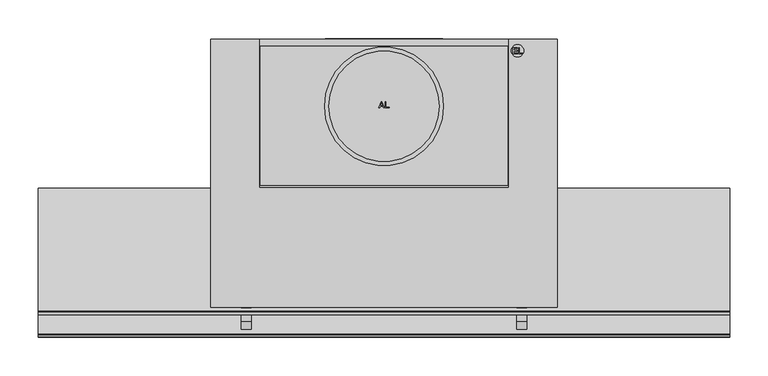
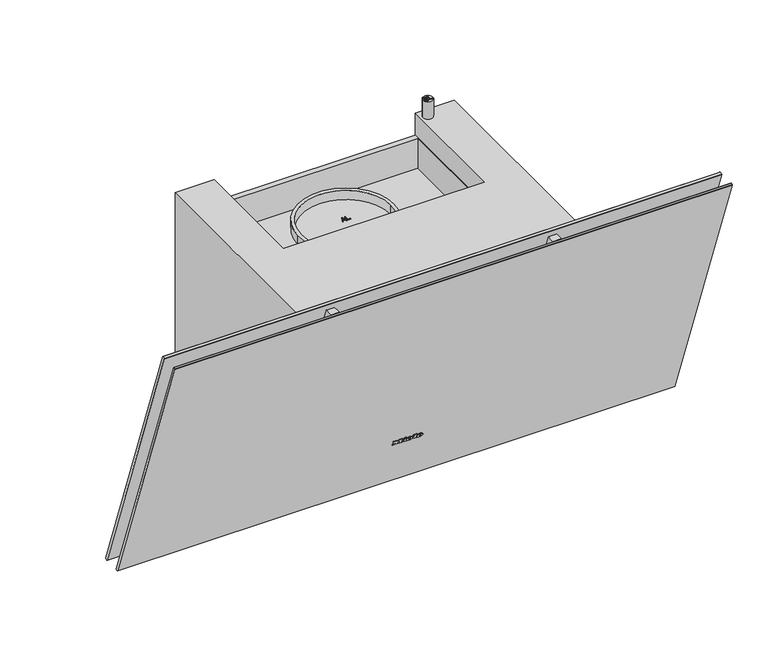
"""IFC4 building model written with IfcOpenShell, lengths in millimetres: proxy geometry, 12568630_F_DAH2960_GRGR : 28H2960G_F_12568630_DAH2960_GRGR."""

from ifc_helpers import new_model, si_unit, point, frame, frame_2d, origin, origin_with_axes, place, context, project, spatial, polyline, circle_curve, ellipse_curve, trimmed, segment, composite_curve, outline, extrude, faceted_brep, source, transform, mapped, element, save
from ifc_brep_helpers import plane_surface, cylinder_surface, revolved_surface, extruded_surface, advanced_brep


def specialty_equipment_28f42fde(model_context):
    return source(origin(), model_context, "Body", "SolidModel", [
        extrude(outline(polyline([(0.0, 0.0), (0.968, 0.0), (0.968, 5.352), (0.0, 5.352), (0.0, 6.696), (3.52, 6.696), (3.52, 5.352), (2.56, 5.352), (2.56, 1.9488753), (6.136, 6.696), (9.728, 1.8807777), (9.728, 5.352), (8.744, 5.352), (8.744, 6.696), (15.128, 6.696), (15.128, 5.352), (14.112, 5.352), (14.112, 0.0), (15.128, 0.0), (15.128, -1.304), (10.256, -1.304), (7.92, 1.696), (5.576, -1.304), (0.0, -1.304), (0.0, 0.0)])), frame((-24.271984, -261.1380975, 82.2921818), z_axis=(0.0, 0.9396926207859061, 0.34202014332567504), x_axis=(1.0, 0.0, 0.0)), (0.0, 0.0, 1.0), 1.0),
        extrude(outline(polyline([(0.0, 0.0), (0.96, 0.0), (0.96, 5.352), (0.0, 5.352), (0.0, 6.696), (6.488, 6.696), (6.488, 5.352), (5.504, 5.352), (5.504, -1.304), (0.0, -1.304), (0.0, 0.0)])), frame((8.192016, -261.1380975, 82.2921818), z_axis=(0.0, 0.9396926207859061, 0.34202014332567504), x_axis=(1.0, 0.0, 0.0)), (0.0, 0.0, 1.0), 1.0),
        extrude(outline(polyline([(0.0, 0.0), (1.4315306, 0.0), (1.4390414, -2.9920869), (0.0109086, -2.9993294), (0.0, 0.0)])), frame((-6.351984, -261.4226582, 83.074006), z_axis=(0.0, 0.9396926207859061, 0.342020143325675), x_axis=(0.42472021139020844, 0.30963927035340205, -0.8507269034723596)), (0.0, 0.0, 1.0), 1.0),
        extrude(outline(polyline([(0.4933907, 2.4141097), (1.7898156, 3.022309), (2.1941493, 2.1604399), (5.1636141, 3.5535222), (4.7592805, 4.4153913), (5.9760369, 4.9862153), (8.6568708, -0.728194), (7.4401145, -1.299018), (7.0459741, -0.4588767), (2.7800843, -2.4601583), (0.4933907, 2.4141097)])), frame((-6.351984, -261.4226582, 83.074006), z_axis=(0.0, 0.9396926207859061, 0.342020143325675), x_axis=(0.42472021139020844, 0.30963927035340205, -0.8507269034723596)), (0.0, 0.0, 1.0), 1.0),
        advanced_brep(
        [(2.392016, -259.4964008, 77.7816572), (2.392016, -259.7727531, 78.5409288), (7.744016, -259.7727531, 78.5409288), (-1.567984, -259.7727531, 78.5409288), (0.632016, -258.8479306, 76.0), (7.608016, -259.4964008, 77.7816572), (5.192016, -259.4964008, 77.7816572), (3.288016, -259.1899507, 76.9396926), (2.392016, -260.1229817, 79.5031741), (2.392016, -260.4212233, 80.3225861), (3.760016, -260.4212233, 80.3225861), (3.760016, -260.1229817, 79.5031741), (2.392016, -258.5567082, 78.1236774), (3.288016, -258.2502581, 77.2817128), (5.192016, -258.5567082, 78.1236774), (7.608016, -258.5567082, 78.1236774), (0.632016, -257.908238, 76.3420201), (-1.567984, -258.8330604, 78.882949), (7.744016, -258.8330604, 78.882949), (2.392016, -258.8330604, 78.882949), (2.392016, -259.1832891, 79.8451942), (3.760016, -259.1832891, 79.8451942), (3.760016, -259.4815306, 80.6646062), (2.392016, -259.4815306, 80.6646062)],
        [
            (0, 1),
            (1, 2),
            (2, 3, ellipse_curve(frame((3.088016, -259.7727531, 78.5409288), z_axis=(0.0, -0.9396926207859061, -0.34202014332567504), x_axis=(-1.0, 0.0, 0.0)), 4.656, 3.848)),
            (3, 4, circle_curve(frame((1.5280596, -259.8657825, 78.7965252), z_axis=(0.0, -0.9396926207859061, -0.34202014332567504), x_axis=(0.0, 0.34202014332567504, -0.9396926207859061)), 3.1079688)),
            (4, 5, circle_curve(frame((2.9948096, -260.5881291, 80.7811561), z_axis=(0.0, -0.9396926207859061, -0.34202014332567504), x_axis=(0.0, 0.34202014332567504, -0.9396926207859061)), 5.6098607)),
            (5, 6),
            (6, 7, circle_curve(frame((3.6790748, -259.7508638, 78.4807885), z_axis=(0.0, 0.9396926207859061, 0.34202014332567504), x_axis=(0.0, 0.34202014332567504, -0.9396926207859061)), 1.6859795)),
            (7, 0, circle_curve(frame((3.288016, -259.4964008, 77.7816572), z_axis=(0.0, 0.9396926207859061, 0.34202014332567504), x_axis=(0.0, 0.34202014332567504, -0.9396926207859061)), 0.896)),
            (8, 9),
            (9, 10, circle_curve(frame((3.076016, -260.4212233, 80.3225861), z_axis=(0.0, 0.9396926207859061, 0.34202014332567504), x_axis=(0.0, 0.34202014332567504, -0.9396926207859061)), 0.684)),
            (10, 11),
            (11, 8),
            (12, 13, circle_curve(frame((3.288016, -258.5567082, 78.1236774), z_axis=(0.0, -0.9396926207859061, -0.34202014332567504), x_axis=(0.0, 0.34202014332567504, -0.9396926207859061)), 0.896)),
            (13, 14, circle_curve(frame((3.6790748, -258.8111712, 78.8228087), z_axis=(0.0, -0.9396926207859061, -0.34202014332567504), x_axis=(0.0, 0.34202014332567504, -0.9396926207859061)), 1.6859795)),
            (14, 15),
            (15, 16, circle_curve(frame((2.9948096, -259.6484365, 81.1231762), z_axis=(0.0, 0.9396926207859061, 0.34202014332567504), x_axis=(0.0, 0.34202014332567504, -0.9396926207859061)), 5.6098607)),
            (16, 17, circle_curve(frame((1.5280596, -258.9260899, 79.1385454), z_axis=(0.0, 0.9396926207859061, 0.34202014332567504), x_axis=(0.0, 0.34202014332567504, -0.9396926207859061)), 3.1079688)),
            (17, 18, ellipse_curve(frame((3.088016, -258.8330604, 78.882949), z_axis=(0.0, 0.9396926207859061, 0.34202014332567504), x_axis=(-1.0, 0.0, 0.0)), 4.656, 3.848)),
            (18, 19),
            (19, 12),
            (20, 21),
            (21, 22),
            (22, 23, circle_curve(frame((3.076016, -259.4815306, 80.6646062), z_axis=(0.0, -0.9396926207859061, -0.34202014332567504), x_axis=(0.0, 0.34202014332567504, -0.9396926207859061)), 0.684)),
            (23, 20),
            (0, 12),
            (19, 1),
            (18, 2),
            (5, 15),
            (14, 6),
            (17, 3),
            (13, 7),
            (16, 4),
            (8, 20),
            (23, 9),
            (22, 10),
            (21, 11),
        ],
        [
            plane_surface(frame((2.392016, -259.7727531, 78.5409288), z_axis=(0.0, -0.9396926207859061, -0.34202014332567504), x_axis=(0.0, -0.34202014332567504, 0.9396926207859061))),
            plane_surface(frame((2.392016, -258.8330604, 78.882949), z_axis=(0.0, 0.9396926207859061, 0.34202014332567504), x_axis=(0.0, 0.34202014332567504, -0.9396926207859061))),
            plane_surface(frame((2.392016, -259.4964008, 77.7816572), z_axis=(1.0, 0.0, 0.0), x_axis=(0.0, 0.9396926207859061, 0.34202014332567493))),
            plane_surface(frame((2.392016, -259.7727531, 78.5409288), z_axis=(0.0, 0.34202014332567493, -0.9396926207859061), x_axis=(0.0, 0.9396926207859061, 0.34202014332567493))),
            plane_surface(frame((7.608016, -259.4964008, 77.7816572), z_axis=(0.0, -0.34202014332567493, 0.9396926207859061), x_axis=(0.0, 0.9396926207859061, 0.34202014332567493))),
            extruded_surface(trimmed(ellipse_curve(frame((3.088016, -257.8933678, 79.2249691), z_axis=(0.0, -0.9396926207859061, -0.34202014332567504), x_axis=(-1.0, 0.0, 0.0)), 4.656, 3.848), [point((7.744016, -257.8933678, 79.2249691))], [point((-1.567984, -257.8933678, 79.2249691))], True, "CARTESIAN"), (0.0, -0.9396926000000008, -0.34202009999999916), 0.9999999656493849),
            revolved_surface(polyline([(3.6790748, -258.2345321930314, 77.23850622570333), (3.6790748, -259.1742248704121, 76.89648606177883)]), (3.6790748, -258.8111712, 78.8228087), (0.0, 0.9396926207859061, 0.34202014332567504)),
            revolved_surface(polyline([(3.288016, -258.25025810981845, 77.28171282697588), (3.288016, -259.1899507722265, 76.93969266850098)]), (3.288016, -258.5567082, 78.1236774), (0.0, 0.9396926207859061, 0.34202014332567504)),
            cylinder_surface(frame((1.5280596, -258.9260899, 79.1385454), z_axis=(0.0, -0.9396926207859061, -0.34202014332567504), x_axis=(0.0, 0.34202014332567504, -0.9396926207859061)), 3.1079688),
            cylinder_surface(frame((2.9948096, -259.6484365, 81.1231762), z_axis=(0.0, -0.9396926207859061, -0.34202014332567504), x_axis=(0.0, 0.34202014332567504, -0.9396926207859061)), 5.6098607),
            plane_surface(frame((2.392016, -260.1229817, 79.5031741), z_axis=(1.0, 0.0, 0.0), x_axis=(0.0, 0.9396926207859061, 0.34202014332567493))),
            revolved_surface(polyline([(3.076016, -259.2475888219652, 80.02185644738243), (3.076016, -260.1872814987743, 79.67983628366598)]), (3.076016, -259.4815306, 80.6646062), (0.0, 0.9396926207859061, 0.34202014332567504)),
            plane_surface(frame((3.760016, -260.4212233, 80.3225861), z_axis=(-1.0, 0.0, 0.0), x_axis=(0.0, 0.9396926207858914, 0.3420201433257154))),
            plane_surface(frame((3.760016, -260.1229817, 79.5031741), z_axis=(0.0, -0.34202014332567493, 0.9396926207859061), x_axis=(0.0, 0.9396926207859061, 0.34202014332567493))),
        ],
        [
            (0, [[1, 2, 3, 4, 5, 6, 7, 8], [9, 10, 11, 12]]),
            (1, [[13, 14, 15, 16, 17, 18, 19, 20], [21, 22, 23, 24]]),
            (2, [[-1, 25, -20, 26]]),
            (3, [[-2, -26, -19, 27]]),
            (4, [[-6, 28, -15, 29]]),
            (5, [[-3, -27, -18, 30]]),
            (6, [[-7, -29, -14, 31]]),
            (7, [[-8, -31, -13, -25]]),
            (8, [[-4, -30, -17, 32]]),
            (9, [[-5, -32, -16, -28]]),
            (10, [[-9, 33, -24, 34]]),
            (11, [[-10, -34, -23, 35]]),
            (12, [[-11, -35, -22, 36]]),
            (13, [[-12, -36, -21, -33]]),
        ],
    ),
        advanced_brep(
        [(19.088016, -259.4964008, 77.7816572), (19.088016, -259.7727531, 78.5409288), (24.440016, -259.7727531, 78.5409288), (15.128016, -259.7727531, 78.5409288), (17.328016, -258.8479306, 76.0), (24.304016, -259.4964008, 77.7816572), (21.888016, -259.4964008, 77.7816572), (19.984016, -259.1899507, 76.9396926), (19.088016, -260.1229817, 79.5031741), (19.088016, -260.4212233, 80.3225861), (20.456016, -260.4212233, 80.3225861), (20.456016, -260.1229817, 79.5031741), (19.088016, -258.5567082, 78.1236774), (19.984016, -258.2502581, 77.2817128), (21.888016, -258.5567082, 78.1236774), (24.304016, -258.5567082, 78.1236774), (17.328016, -257.908238, 76.3420201), (15.128016, -258.8330604, 78.882949), (24.440016, -258.8330604, 78.882949), (19.088016, -258.8330604, 78.882949), (19.088016, -259.1832891, 79.8451942), (20.456016, -259.1832891, 79.8451942), (20.456016, -259.4815306, 80.6646062), (19.088016, -259.4815306, 80.6646062)],
        [
            (0, 1),
            (1, 2),
            (2, 3, ellipse_curve(frame((19.784016, -259.7727531, 78.5409288), z_axis=(0.0, -0.9396926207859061, -0.34202014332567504), x_axis=(-1.0, 0.0, 0.0)), 4.656, 3.848)),
            (3, 4, circle_curve(frame((18.2240596, -259.8657825, 78.7965252), z_axis=(0.0, -0.9396926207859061, -0.34202014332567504), x_axis=(0.0, 0.34202014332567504, -0.9396926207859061)), 3.1079688)),
            (4, 5, circle_curve(frame((19.6908096, -260.5881291, 80.7811561), z_axis=(0.0, -0.9396926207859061, -0.34202014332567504), x_axis=(0.0, 0.34202014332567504, -0.9396926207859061)), 5.6098607)),
            (5, 6),
            (6, 7, circle_curve(frame((20.3750748, -259.7508638, 78.4807885), z_axis=(0.0, 0.9396926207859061, 0.34202014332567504), x_axis=(0.0, 0.34202014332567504, -0.9396926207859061)), 1.6859795)),
            (7, 0, circle_curve(frame((19.984016, -259.4964008, 77.7816572), z_axis=(0.0, 0.9396926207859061, 0.34202014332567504), x_axis=(0.0, 0.34202014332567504, -0.9396926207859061)), 0.896)),
            (8, 9),
            (9, 10, circle_curve(frame((19.772016, -260.4212233, 80.3225861), z_axis=(0.0, 0.9396926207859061, 0.34202014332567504), x_axis=(0.0, 0.34202014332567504, -0.9396926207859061)), 0.684)),
            (10, 11),
            (11, 8),
            (12, 13, circle_curve(frame((19.984016, -258.5567082, 78.1236774), z_axis=(0.0, -0.9396926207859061, -0.34202014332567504), x_axis=(0.0, 0.34202014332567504, -0.9396926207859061)), 0.896)),
            (13, 14, circle_curve(frame((20.3750748, -258.8111712, 78.8228087), z_axis=(0.0, -0.9396926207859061, -0.34202014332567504), x_axis=(0.0, 0.34202014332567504, -0.9396926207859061)), 1.6859795)),
            (14, 15),
            (15, 16, circle_curve(frame((19.6908096, -259.6484365, 81.1231762), z_axis=(0.0, 0.9396926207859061, 0.34202014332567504), x_axis=(0.0, 0.34202014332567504, -0.9396926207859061)), 5.6098607)),
            (16, 17, circle_curve(frame((18.2240596, -258.9260899, 79.1385454), z_axis=(0.0, 0.9396926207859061, 0.34202014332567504), x_axis=(0.0, 0.34202014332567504, -0.9396926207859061)), 3.1079688)),
            (17, 18, ellipse_curve(frame((19.784016, -258.8330604, 78.882949), z_axis=(0.0, 0.9396926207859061, 0.34202014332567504), x_axis=(-1.0, 0.0, 0.0)), 4.656, 3.848)),
            (18, 19),
            (19, 12),
            (20, 21),
            (21, 22),
            (22, 23, circle_curve(frame((19.772016, -259.4815306, 80.6646062), z_axis=(0.0, -0.9396926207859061, -0.34202014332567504), x_axis=(0.0, 0.34202014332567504, -0.9396926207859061)), 0.684)),
            (23, 20),
            (0, 12),
            (19, 1),
            (18, 2),
            (5, 15),
            (14, 6),
            (17, 3),
            (13, 7),
            (16, 4),
            (8, 20),
            (23, 9),
            (22, 10),
            (21, 11),
        ],
        [
            plane_surface(frame((19.088016, -259.7727531, 78.5409288), z_axis=(0.0, -0.9396926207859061, -0.34202014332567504), x_axis=(0.0, -0.34202014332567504, 0.9396926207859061))),
            plane_surface(frame((19.088016, -258.8330604, 78.882949), z_axis=(0.0, 0.9396926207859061, 0.34202014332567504), x_axis=(0.0, 0.34202014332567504, -0.9396926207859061))),
            plane_surface(frame((19.088016, -259.4964008, 77.7816572), z_axis=(1.0, 0.0, 0.0), x_axis=(0.0, 0.9396926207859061, 0.34202014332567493))),
            plane_surface(frame((19.088016, -259.7727531, 78.5409288), z_axis=(0.0, 0.34202014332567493, -0.9396926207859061), x_axis=(0.0, 0.9396926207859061, 0.34202014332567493))),
            plane_surface(frame((24.304016, -259.4964008, 77.7816572), z_axis=(0.0, -0.34202014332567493, 0.9396926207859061), x_axis=(0.0, 0.9396926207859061, 0.34202014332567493))),
            extruded_surface(trimmed(ellipse_curve(frame((19.784016, -257.8933678, 79.2249691), z_axis=(0.0, -0.9396926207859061, -0.34202014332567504), x_axis=(-1.0, 0.0, 0.0)), 4.656, 3.848), [point((24.440016, -257.8933678, 79.2249691))], [point((15.128016, -257.8933678, 79.2249691))], True, "CARTESIAN"), (0.0, -0.9396926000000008, -0.34202009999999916), 0.9999999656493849),
            revolved_surface(polyline([(20.3750748, -258.2345321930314, 77.23850622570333), (20.3750748, -259.1742248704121, 76.89648606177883)]), (20.3750748, -258.8111712, 78.8228087), (0.0, 0.9396926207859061, 0.34202014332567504)),
            revolved_surface(polyline([(19.984016, -258.25025810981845, 77.28171282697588), (19.984016, -259.1899507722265, 76.93969266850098)]), (19.984016, -258.5567082, 78.1236774), (0.0, 0.9396926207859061, 0.34202014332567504)),
            cylinder_surface(frame((18.2240596, -258.9260899, 79.1385454), z_axis=(0.0, -0.9396926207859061, -0.34202014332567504), x_axis=(0.0, 0.34202014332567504, -0.9396926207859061)), 3.1079688),
            cylinder_surface(frame((19.6908096, -259.6484365, 81.1231762), z_axis=(0.0, -0.9396926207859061, -0.34202014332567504), x_axis=(0.0, 0.34202014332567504, -0.9396926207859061)), 5.6098607),
            plane_surface(frame((19.088016, -260.1229817, 79.5031741), z_axis=(1.0, 0.0, 0.0), x_axis=(0.0, 0.9396926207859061, 0.34202014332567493))),
            revolved_surface(polyline([(19.772016, -259.2475888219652, 80.02185644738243), (19.772016, -260.1872814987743, 79.67983628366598)]), (19.772016, -259.4815306, 80.6646062), (0.0, 0.9396926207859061, 0.34202014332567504)),
            plane_surface(frame((20.456016, -260.4212233, 80.3225861), z_axis=(-1.0, 0.0, 0.0), x_axis=(0.0, 0.9396926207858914, 0.3420201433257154))),
            plane_surface(frame((20.456016, -260.1229817, 79.5031741), z_axis=(0.0, -0.34202014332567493, 0.9396926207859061), x_axis=(0.0, 0.9396926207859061, 0.34202014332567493))),
        ],
        [
            (0, [[1, 2, 3, 4, 5, 6, 7, 8], [9, 10, 11, 12]]),
            (1, [[13, 14, 15, 16, 17, 18, 19, 20], [21, 22, 23, 24]]),
            (2, [[-1, 25, -20, 26]]),
            (3, [[-2, -26, -19, 27]]),
            (4, [[-6, 28, -15, 29]]),
            (5, [[-3, -27, -18, 30]]),
            (6, [[-7, -29, -14, 31]]),
            (7, [[-8, -31, -13, -25]]),
            (8, [[-4, -30, -17, 32]]),
            (9, [[-5, -32, -16, -28]]),
            (10, [[-9, 33, -24, 34]]),
            (11, [[-10, -34, -23, 35]]),
            (12, [[-11, -35, -22, 36]]),
            (13, [[-12, -36, -21, -33]]),
        ],
    ),
        advanced_brep(
        [(-198.5, -225.9485265, 82.132138), (-198.5, -235.8911369, 109.4492355), (-198.5, -230.9198317, 95.7906867), (-198.5, -231.2422284, 80.5173231), (-198.5, -240.9843308, 107.2835295), (-198.5, -250.514978, 76.8365225), (-198.5, -258.1140866, 97.7149017), (-198.5, -251.4164577, 77.3487429), (-198.5, -258.4754112, 96.7430581), (-198.5, -254.9459345, 87.0459005)],
        [
            (0, 1, circle_curve(frame((-198.5, -230.9198317, 95.7906867), z_axis=(0.0, 0.9396926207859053, 0.3420201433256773), x_axis=(0.0, -0.3420201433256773, 0.9396926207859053)), 14.535124)),
            (1, 2),
            (2, 0),
            (1, 0, circle_curve(frame((-198.5, -230.9198317, 95.7906867), z_axis=(0.0, 0.9396926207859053, 0.3420201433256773), x_axis=(0.0, -0.3420201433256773, 0.9396926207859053)), 14.535124)),
            (3, 4, circle_curve(frame((-198.5, -236.1132796, 93.9004263), z_axis=(0.0, 0.9396926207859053, 0.3420201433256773), x_axis=(0.0, -0.3420201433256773, 0.9396926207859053)), 14.2420009)),
            (4, 1),
            (0, 3),
            (4, 3, circle_curve(frame((-198.5, -236.1132796, 93.9004263), z_axis=(0.0, 0.9396926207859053, 0.3420201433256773), x_axis=(0.0, -0.3420201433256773, 0.9396926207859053)), 14.2420009)),
            (5, 6, circle_curve(frame((-198.5, -254.3145323, 87.2757121), z_axis=(0.0, 0.9396926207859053, 0.3420201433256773), x_axis=(0.0, -0.3420201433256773, 0.9396926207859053)), 11.1091535)),
            (6, 4),
            (3, 5),
            (6, 5, circle_curve(frame((-198.5, -254.3145323, 87.2757121), z_axis=(0.0, 0.9396926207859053, 0.3420201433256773), x_axis=(0.0, -0.3420201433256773, 0.9396926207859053)), 11.1091535)),
            (7, 8, circle_curve(frame((-198.5, -254.9459345, 87.0459005), z_axis=(0.0, 0.9396926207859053, 0.3420201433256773), x_axis=(0.0, -0.3420201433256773, 0.9396926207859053)), 10.3194996)),
            (8, 6),
            (5, 7),
            (8, 7, circle_curve(frame((-198.5, -254.9459345, 87.0459005), z_axis=(0.0, 0.9396926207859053, 0.3420201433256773), x_axis=(0.0, -0.3420201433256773, 0.9396926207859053)), 10.3194996)),
            (9, 8),
            (7, 9),
        ],
        [
            plane_surface(frame((-198.5, -230.9198317, 95.7906867), z_axis=(0.0, 0.9396926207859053, 0.3420201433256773), x_axis=(0.0, -0.3420201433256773, 0.9396926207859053))),
            revolved_surface(polyline([(-198.5, -235.8312261, 109.4708926), (-198.5, -240.9843308, 107.2835295)]), (-198.5, -255.2773841, 86.9252627), (0.0, -0.9396926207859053, -0.3420201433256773)),
            revolved_surface(polyline([(-198.5, -240.9843308, 107.2835295), (-198.5, -258.1140866, 97.7149017)]), (-198.5, -255.2773841, 86.9252627), (0.0, -0.9396926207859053, -0.3420201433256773)),
            revolved_surface(polyline([(-198.5, -258.1140866, 97.7149017), (-198.5, -258.4754112, 96.7430581)]), (-198.5, -255.2773841, 86.9252627), (0.0, -0.9396926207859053, -0.3420201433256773)),
            plane_surface(frame((-198.5, -254.9459345, 87.0459005), z_axis=(0.0, -0.9396926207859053, -0.3420201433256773), x_axis=(0.0, -0.3420201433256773, 0.9396926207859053))),
        ],
        [
            (0, [[1, 2, 3]]),
            (0, [[4, -3, -2]]),
            (1, [[5, 6, -1, 7]]),
            (1, [[8, -7, -4, -6]]),
            (2, [[9, 10, -5, 11]]),
            (2, [[12, -11, -8, -10]]),
            (3, [[13, 14, -9, 15]]),
            (3, [[16, -15, -12, -14]]),
            (4, [[17, -13, 18]]),
            (4, [[-18, -16, -17]]),
        ],
    ),
        advanced_brep(
        [(-198.5, -249.4001153, 68.4387353), (-198.5, -262.8067778, 105.2732379), (-198.5, -257.0531232, 93.8737841), (-198.5, -252.3199878, 80.8696014), (-198.5, -250.699917, 68.232867), (-198.5, -263.9348133, 104.5954458), (-198.5, -257.3173652, 86.4141564), (-198.5, -254.6865555, 87.3716928)],
        [
            (0, 1, circle_curve(frame((-198.5, -256.1034466, 86.8559866), z_axis=(0.0, 0.9396926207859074, 0.34202014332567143), x_axis=(0.0, -0.34202014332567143, 0.9396926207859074)), 19.5992294)),
            (1, 2),
            (2, 3, circle_curve(frame((-198.5, -254.6865555, 87.3716928), z_axis=(0.0, -0.9396926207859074, -0.34202014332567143), x_axis=(0.0, -0.34202014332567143, 0.9396926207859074)), 6.9193811)),
            (3, 0),
            (1, 0, circle_curve(frame((-198.5, -256.1034466, 86.8559866), z_axis=(0.0, 0.9396926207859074, 0.34202014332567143), x_axis=(0.0, -0.34202014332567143, 0.9396926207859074)), 19.5992294)),
            (3, 2, circle_curve(frame((-198.5, -254.6865555, 87.3716928), z_axis=(0.0, -0.9396926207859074, -0.34202014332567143), x_axis=(0.0, -0.34202014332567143, 0.9396926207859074)), 6.9193811)),
            (4, 5, circle_curve(frame((-198.5, -257.3173652, 86.4141564), z_axis=(0.0, 0.9396926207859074, 0.34202014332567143), x_axis=(0.0, -0.34202014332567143, 0.9396926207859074)), 19.3481241)),
            (5, 1),
            (0, 4),
            (5, 4, circle_curve(frame((-198.5, -257.3173652, 86.4141564), z_axis=(0.0, 0.9396926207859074, 0.34202014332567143), x_axis=(0.0, -0.34202014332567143, 0.9396926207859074)), 19.3481241)),
            (6, 5),
            (4, 6),
            (2, 7),
            (7, 3),
        ],
        [
            revolved_surface(polyline([(-198.5, -257.0531232, 93.8737841), (-198.5, -262.8067778, 105.2732379)]), (-198.5, -254.6865555, 87.3716928), (0.0, -0.9396926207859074, -0.34202014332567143)),
            revolved_surface(polyline([(-198.5, -262.8067778, 105.2732379), (-198.5, -263.9348133, 104.5954458)]), (-198.5, -254.6865555, 87.3716928), (0.0, -0.9396926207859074, -0.34202014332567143)),
            plane_surface(frame((-198.5, -257.3173652, 86.4141564), z_axis=(0.0, -0.9396926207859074, -0.34202014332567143), x_axis=(0.0, -0.34202014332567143, 0.9396926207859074))),
            plane_surface(frame((-198.5, -254.6865555, 87.3716928), z_axis=(0.0, 0.9396926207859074, 0.34202014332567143), x_axis=(0.0, -0.34202014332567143, 0.9396926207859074))),
        ],
        [
            (0, [[1, 2, 3, 4]]),
            (0, [[5, -4, 6, -2]]),
            (1, [[7, 8, -1, 9]]),
            (1, [[10, -9, -5, -8]]),
            (2, [[11, -7, 12]]),
            (2, [[-12, -10, -11]]),
            (3, [[-3, 13, 14]]),
            (3, [[-6, -14, -13]]),
        ],
    ),
        advanced_brep(
        [(198.5, -230.9018417, 95.8650227), (198.5, -235.8509293, 109.4625291), (198.5, -225.9091808, 82.1477994), (198.5, -240.9843308, 107.2835295), (198.5, -231.2422284, 80.5173231), (198.5, -258.1140866, 97.7149017), (198.5, -250.514978, 76.8365225), (198.5, -258.4754112, 96.7430581), (198.5, -251.4164577, 77.3487429), (198.5, -254.9459345, 87.0459005)],
        [
            (0, 1),
            (1, 2, circle_curve(frame((198.5, -230.8800551, 95.8051643), z_axis=(0.0, 0.9396926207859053, 0.3420201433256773), x_axis=(0.0, -0.3420201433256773, 0.9396926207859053)), 14.5338641)),
            (2, 0),
            (2, 1, circle_curve(frame((198.5, -230.8800551, 95.8051643), z_axis=(0.0, 0.9396926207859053, 0.3420201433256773), x_axis=(0.0, -0.3420201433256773, 0.9396926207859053)), 14.5338641)),
            (1, 3),
            (3, 4, circle_curve(frame((198.5, -236.1132796, 93.9004263), z_axis=(0.0, 0.9396926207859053, 0.3420201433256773), x_axis=(0.0, -0.3420201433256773, 0.9396926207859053)), 14.2420009)),
            (4, 2),
            (4, 3, circle_curve(frame((198.5, -236.1132796, 93.9004263), z_axis=(0.0, 0.9396926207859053, 0.3420201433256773), x_axis=(0.0, -0.3420201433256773, 0.9396926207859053)), 14.2420009)),
            (3, 5),
            (5, 6, circle_curve(frame((198.5, -254.3145323, 87.2757121), z_axis=(0.0, 0.9396926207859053, 0.3420201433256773), x_axis=(0.0, -0.3420201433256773, 0.9396926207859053)), 11.1091535)),
            (6, 4),
            (6, 5, circle_curve(frame((198.5, -254.3145323, 87.2757121), z_axis=(0.0, 0.9396926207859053, 0.3420201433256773), x_axis=(0.0, -0.3420201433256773, 0.9396926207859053)), 11.1091535)),
            (5, 7),
            (7, 8, circle_curve(frame((198.5, -254.9459345, 87.0459005), z_axis=(0.0, 0.9396926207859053, 0.3420201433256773), x_axis=(0.0, -0.3420201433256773, 0.9396926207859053)), 10.3194996)),
            (8, 6),
            (8, 7, circle_curve(frame((198.5, -254.9459345, 87.0459005), z_axis=(0.0, 0.9396926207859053, 0.3420201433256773), x_axis=(0.0, -0.3420201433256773, 0.9396926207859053)), 10.3194996)),
            (7, 9),
            (9, 8),
        ],
        [
            plane_surface(frame((198.5, -230.8800551, 95.8051643), z_axis=(0.0, 0.9396926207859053, 0.3420201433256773), x_axis=(0.0, -0.3420201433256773, 0.9396926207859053))),
            revolved_surface(polyline([(198.5, -240.9843308, 107.2835295), (198.5, -235.8509293, 109.4625291)]), (198.5, -255.2773841, 86.9252627), (0.0, 0.9396926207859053, 0.3420201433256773)),
            revolved_surface(polyline([(198.5, -258.1140866, 97.7149017), (198.5, -240.9843308, 107.2835295)]), (198.5, -255.2773841, 86.9252627), (0.0, 0.9396926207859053, 0.3420201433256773)),
            revolved_surface(polyline([(198.5, -258.4754112, 96.7430581), (198.5, -258.1140866, 97.7149017)]), (198.5, -255.2773841, 86.9252627), (0.0, 0.9396926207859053, 0.3420201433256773)),
            plane_surface(frame((198.5, -254.9459345, 87.0459005), z_axis=(0.0, -0.9396926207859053, -0.3420201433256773), x_axis=(0.0, -0.3420201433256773, 0.9396926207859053))),
        ],
        [
            (0, [[1, 2, 3]]),
            (0, [[-3, 4, -1]]),
            (1, [[-2, 5, 6, 7]]),
            (1, [[-4, -7, 8, -5]]),
            (2, [[-6, 9, 10, 11]]),
            (2, [[-8, -11, 12, -9]]),
            (3, [[-10, 13, 14, 15]]),
            (3, [[-12, -15, 16, -13]]),
            (4, [[-14, 17, 18]]),
            (4, [[-16, -18, -17]]),
        ],
    ),
        advanced_brep(
        [(198.5, -252.3199878, 80.8696014), (198.5, -257.0531232, 93.8737841), (198.5, -262.8067778, 105.2732379), (198.5, -249.4001153, 68.4387353), (198.5, -263.9348133, 104.5954458), (198.5, -250.699917, 68.232867), (198.5, -257.3173652, 86.4141564), (198.5, -254.6865555, 87.3716928)],
        [
            (0, 1, circle_curve(frame((198.5, -254.6865555, 87.3716928), z_axis=(0.0, -0.9396926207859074, -0.34202014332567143), x_axis=(0.0, -0.34202014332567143, 0.9396926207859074)), 6.9193811)),
            (1, 2),
            (2, 3, circle_curve(frame((198.5, -256.1034466, 86.8559866), z_axis=(0.0, 0.9396926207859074, 0.34202014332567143), x_axis=(0.0, -0.34202014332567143, 0.9396926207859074)), 19.5992294)),
            (3, 0),
            (1, 0, circle_curve(frame((198.5, -254.6865555, 87.3716928), z_axis=(0.0, -0.9396926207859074, -0.34202014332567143), x_axis=(0.0, -0.34202014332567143, 0.9396926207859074)), 6.9193811)),
            (3, 2, circle_curve(frame((198.5, -256.1034466, 86.8559866), z_axis=(0.0, 0.9396926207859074, 0.34202014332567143), x_axis=(0.0, -0.34202014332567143, 0.9396926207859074)), 19.5992294)),
            (2, 4),
            (4, 5, circle_curve(frame((198.5, -257.3173652, 86.4141564), z_axis=(0.0, 0.9396926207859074, 0.34202014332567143), x_axis=(0.0, -0.34202014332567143, 0.9396926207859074)), 19.3481241)),
            (5, 3),
            (5, 4, circle_curve(frame((198.5, -257.3173652, 86.4141564), z_axis=(0.0, 0.9396926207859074, 0.34202014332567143), x_axis=(0.0, -0.34202014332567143, 0.9396926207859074)), 19.3481241)),
            (4, 6),
            (6, 5),
            (7, 1),
            (0, 7),
        ],
        [
            revolved_surface(polyline([(198.5, -262.8067778, 105.2732379), (198.5, -257.0531232, 93.8737841)]), (198.5, -254.6865555, 87.3716928), (0.0, 0.9396926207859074, 0.34202014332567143)),
            revolved_surface(polyline([(198.5, -263.9348133, 104.5954458), (198.5, -262.8067778, 105.2732379)]), (198.5, -254.6865555, 87.3716928), (0.0, 0.9396926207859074, 0.34202014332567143)),
            plane_surface(frame((198.5, -257.3173652, 86.4141564), z_axis=(0.0, -0.9396926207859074, -0.34202014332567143), x_axis=(0.0, -0.34202014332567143, 0.9396926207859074))),
            plane_surface(frame((198.5, -254.6865555, 87.3716928), z_axis=(0.0, 0.9396926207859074, 0.34202014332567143), x_axis=(0.0, -0.34202014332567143, 0.9396926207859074))),
        ],
        [
            (0, [[1, 2, 3, 4]]),
            (0, [[5, -4, 6, -2]]),
            (1, [[-3, 7, 8, 9]]),
            (1, [[-6, -9, 10, -7]]),
            (2, [[-8, 11, 12]]),
            (2, [[-10, -12, -11]]),
            (3, [[13, -1, 14]]),
            (3, [[-14, -5, -13]]),
        ],
    ),
        extrude(outline(polyline([(-377.2541471, 415.9959153), (-366.2530147, 420.0), (-348.8949883, 420.0), (-315.0686278, 327.0628384), (-321.2276447, 324.8211395), (-334.9582954, 325.4920509), (-347.6637142, 334.6968691), (-377.2541471, 415.9959153)])), frame((-185.7167767, 0.0, 0.0), z_axis=(1.0, 0.0, 0.0), x_axis=(0.0, 1.0, 0.0)), (0.0, 0.0, 1.0), 13.4088513),
        extrude(outline(polyline([(-377.2541471, 415.9959153), (-366.2530147, 420.0), (-348.8949883, 420.0), (-315.0686278, 327.0628384), (-321.2276447, 324.8211395), (-334.9582954, 325.4920509), (-347.6637142, 334.6968691), (-377.2541471, 415.9959153)])), frame((172.3079253, 0.0, 0.0), z_axis=(1.0, 0.0, 0.0), x_axis=(0.0, 1.0, 0.0)), (0.0, 0.0, 1.0), 13.4088513),
        extrude(outline(polyline([(-387.1323401, 432.8365045), (-384.310791, 433.8634644), (-383.5944926, 433.4158714), (-223.2772642, -7.0520936), (-223.5613092, -7.7920563), (-226.3696341, -8.8142029), (-227.0596169, -8.4158411), (-387.3899893, 432.0882368), (-387.1323401, 432.8365045)])), frame((-449.0, 0.0, 0.0), z_axis=(1.0, 0.0, 0.0), x_axis=(0.0, 1.0, 0.0)), (0.0, 0.0, 1.0), 898.0),
        extrude(outline(polyline([(-357.7500767, 432.8365045), (-354.6517562, 433.9642009), (-353.7790899, 433.4190033), (-193.5484199, -6.8114741), (-193.8719465, -7.7304916), (-196.9340313, -8.8449984), (-197.6773535, -8.4158411), (-358.007726, 432.0882368), (-357.7500767, 432.8365045)])), frame((-449.0, 0.0, 0.0), z_axis=(1.0, 0.0, 0.0), x_axis=(0.0, 1.0, 0.0)), (0.0, 0.0, 1.0), 898.0),
        extrude(outline(polyline([(-287.1198024, 229.753659), (-287.6205942, 218.2841221), (-296.0848836, 210.5280081), (-301.7042998, 208.4827078), (-327.3688694, 278.9955333), (-319.9071972, 281.7113599), (-309.7792372, 280.1072486), (-302.5107089, 272.039827), (-287.1198024, 229.753659)])), frame((182.9499624, 0.0, 0.0), z_axis=(1.0, 0.0, 0.0), x_axis=(0.0, 1.0, 0.0)), (0.0, 0.0, 1.0), 3.1163744),
        extrude(outline(composite_curve([segment(trimmed(circle_curve(frame_2d((0.0, -6.0)), 6.0), [point((0.0, -12.0))], [point((0.0, 0.0))], False, "CARTESIAN"), True, "CONTINUOUS"), segment(trimmed(circle_curve(frame_2d((0.0, -6.0)), 6.0), [point((0.0, 0.0))], [point((0.0, -12.0))], False, "CARTESIAN"), True, "CONTINUOUS")], self_intersect=False)), frame((198.4796168, -304.9287055, 251.8746642), z_axis=(0.0, -0.3420201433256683, 0.9396926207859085), x_axis=(0.0, -0.9396926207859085, -0.3420201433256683)), (0.0, 0.0, 1.0), 126.121517),
        faceted_brep([(225.0000193, -349.0, 420.0), (225.0000193, -196.2332597, 0.0), (225.0000193, 0.0, 0.0), (225.0000193, 0.0, 420.0), (-225.0000193, -349.0, 420.0), (-225.0000193, 0.0, 420.0), (-225.0000193, 0.0, 0.0), (-225.0000193, -196.2332597, 0.0), (176.5, -48.0, 0.0), (-176.5, -48.0, 0.0), (-176.5, -181.0, 0.0), (176.5, -181.0, 0.0), (125.0, -12.0, 0.0), (-125.0, -12.0, 0.0), (-125.0, -38.0, 0.0), (125.0, -38.0, 0.0), (-162.2229137, 0.0, 420.0), (-162.2229137, 0.0, 382.5), (162.2229137, 0.0, 382.5), (162.2229137, 0.0, 420.0), (-160.9556997, -9.0, 332.0), (160.9556997, -9.0, 332.0), (160.9556997, -9.0, 382.5), (-160.9556997, -9.0, 382.5), (-160.9556997, -190.0399284, 332.0), (-160.9556997, -190.0399284, 382.5), (160.9556997, -190.0399284, 332.0), (160.9556997, -190.0399284, 382.5), (176.5, -48.0, 11.0), (-176.5, -48.0, 11.0), (125.0, -12.0, 11.0), (-125.0, -12.0, 11.0), (162.2229137, -193.2332597, 420.0), (-162.2229137, -193.2332597, 420.0), (176.5, -181.0, 11.0), (-176.5, -181.0, 11.0), (125.0, -38.0, 11.0), (-125.0, -38.0, 11.0), (162.2229137, -193.2332597, 382.5), (-162.2229137, -193.2332597, 382.5)], [[[0, 1, 2, 3]], [[4, 5, 6, 7]], [[1, 0, 4, 7]], [[2, 1, 7, 6], [8, 9, 10, 11], [12, 13, 14, 15]], [[3, 2, 6, 5, 16, 17, 18, 19]], [[20, 21, 22, 23]], [[24, 20, 23, 25]], [[21, 26, 27, 22]], [[28, 29, 9, 8]], [[30, 31, 13, 12]], [[0, 3, 19, 32, 33, 16, 5, 4]], [[21, 20, 24, 26]], [[26, 24, 25, 27]], [[28, 34, 35, 29]], [[29, 35, 10, 9]], [[35, 34, 11, 10]], [[34, 28, 8, 11]], [[30, 36, 37, 31]], [[31, 37, 14, 13]], [[37, 36, 15, 14]], [[36, 30, 12, 15]], [[32, 38, 39, 33]], [[39, 38, 18, 17], [23, 22, 27, 25]], [[38, 32, 19, 18]], [[33, 39, 17, 16]]]),
        extrude(outline(polyline([(125.0, -12.0), (125.0, -38.0), (-125.0, -38.0), (-125.0, -12.0), (125.0, -12.0)]), holes=[polyline([(-119.0, -31.2), (119.0, -31.2), (119.0, -18.8), (-119.0, -18.8), (-119.0, -31.2)])]), origin_with_axes(), (0.0, 0.0, 1.0), 11.0),
        extrude(outline(polyline([(119.0, -18.8), (119.0, -31.2), (-119.0, -31.2), (-119.0, -18.8), (119.0, -18.8)])), origin_with_axes(), (0.0, 0.0, 1.0), 11.0),
        extrude(outline(polyline([(176.5, -48.0), (176.5, -181.0), (-176.5, -181.0), (-176.5, -48.0), (176.5, -48.0)]), holes=[polyline([(167.5, -57.0), (-167.5, -57.0), (-167.5, -172.0), (167.5, -172.0), (167.5, -57.0)])]), origin_with_axes(), (0.0, 0.0, 1.0), 11.0),
        extrude(outline(polyline([(167.5, -57.0), (167.5, -172.0), (-167.5, -172.0), (-167.5, -57.0), (167.5, -57.0)])), frame((0.0, 0.0, 1.0), z_axis=(0.0, 0.0, 1.0), x_axis=(1.0, 0.0, 0.0)), (0.0, 0.0, 1.0), 10.0),
        extrude(outline(polyline([(-167.5, -98.0), (-124.5000193, -98.0), (-124.5000193, -131.0), (-167.5, -131.0), (-167.5, -98.0)]), holes=[polyline([(-131.0000193, -104.5), (-160.0000193, -104.5), (-160.0000193, -124.5), (-131.0000193, -124.5), (-131.0000193, -104.5)])]), origin_with_axes(), (0.0, 0.0, 1.0), 1.0),
        extrude(outline(polyline([(-131.0000193, -104.5), (-131.0000193, -124.5), (-140.0000193, -124.5), (-140.0000193, -104.5), (-131.0000193, -104.5)])), origin_with_axes(), (0.0, 0.0, 1.0), 1.0),
        extrude(outline(composite_curve([segment(trimmed(circle_curve(frame_2d((0.0, -86.9971466)), 77.2963157), [point((-77.2963157, -86.9971466))], [point((77.2963157, -86.9971466))], False, "CARTESIAN"), True, "CONTINUOUS"), segment(trimmed(circle_curve(frame_2d((0.0, -86.9971466)), 77.2963157), [point((77.2963157, -86.9971466))], [point((-77.2963157, -86.9971466))], False, "CARTESIAN"), True, "CONTINUOUS")], self_intersect=False), holes=[composite_curve([segment(trimmed(circle_curve(frame_2d((0.0, -86.9971466)), 71.617422), [point((-71.617422, -86.9971466))], [point((71.617422, -86.9971466))], True, "CARTESIAN"), True, "CONTINUOUS"), segment(trimmed(circle_curve(frame_2d((0.0, -86.9971466)), 71.617422), [point((71.617422, -86.9971466))], [point((-71.617422, -86.9971466))], True, "CARTESIAN"), True, "CONTINUOUS")], self_intersect=False)]), frame((0.0, 0.0, 332.0), z_axis=(0.0, 0.0, 1.0), x_axis=(1.0, 0.0, 0.0)), (0.0, 0.0, 1.0), 15.9326282),
        extrude(outline(polyline([(-6.835738, -89.2416424), (-3.627807, -81.2051375), (-2.7723587, -81.2051375), (0.4336102, -89.2416424), (-0.6278519, -89.2416424), (-1.5460854, -86.7302346), (-4.8580044, -86.7302346), (-5.7762378, -89.2416424), (-6.835738, -89.2416424)]), holes=[polyline([(-4.4891414, -85.7256715), (-1.9129864, -85.7256715), (-2.6389402, -83.7498999), (-3.2020449, -82.2097006), (-3.7023644, -83.5772407), (-4.4891414, -85.7256715)])]), frame((0.0, 0.0, 347.9326282), z_axis=(0.0, 0.0, 1.0), x_axis=(1.0, 0.0, 0.0)), (0.0, 0.0, 1.0), 1.0),
        extrude(outline(polyline([(1.5068447, -89.2416424), (1.5068447, -81.2051375), (2.5114078, -81.2051375), (2.5114078, -88.2370793), (6.5296602, -88.2370793), (6.5296602, -89.2416424), (1.5068447, -89.2416424)])), frame((0.0, 0.0, 347.9326282), z_axis=(0.0, 0.0, 1.0), x_axis=(1.0, 0.0, 0.0)), (0.0, 0.0, 1.0), 1.0),
        extrude(outline(composite_curve([segment(trimmed(circle_curve(frame_2d((192.5519409, 0.0)), 76.1990432), [point((192.5519409, -76.1990432))], [point((192.5519409, 76.1990432))], False, "CARTESIAN"), True, "CONTINUOUS"), segment(trimmed(circle_curve(frame_2d((192.5519409, 0.0)), 76.1990432), [point((192.5519409, 76.1990432))], [point((192.5519409, -76.1990432))], False, "CARTESIAN"), True, "CONTINUOUS")], self_intersect=False)), frame((0.0, 0.0, 0.0), z_axis=(0.0, 1.0, 0.0), x_axis=(0.0, 0.0, 1.0)), (0.0, 0.0, 1.0), 1.0),
        extrude(outline(composite_curve([segment(trimmed(circle_curve(frame_2d((173.4999807, -15.0000005)), 8.0), [point((165.4999807, -15.0000005))], [point((181.4999807, -15.0000005))], False, "CARTESIAN"), True, "CONTINUOUS"), segment(trimmed(circle_curve(frame_2d((173.4999807, -15.0000005)), 8.0), [point((181.4999807, -15.0000005))], [point((165.4999807, -15.0000005))], False, "CARTESIAN"), True, "CONTINUOUS")], self_intersect=False)), frame((0.0, 0.0, 420.0), z_axis=(0.0, 0.0, 1.0), x_axis=(1.0, 0.0, 0.0)), (0.0, 0.0, 1.0), 30.0),
        extrude(outline(polyline([(167.5981725, -19.0000005), (167.5981725, -10.9634957), (173.3744104, -10.9634957), (173.3744104, -11.9680588), (168.6027356, -11.9680588), (168.6027356, -14.3538961), (173.1232696, -14.3538961), (173.1232696, -15.3584592), (168.6027356, -15.3584592), (168.6027356, -17.9954374), (173.4999807, -17.9954374), (173.4999807, -19.0000005), (167.5981725, -19.0000005)])), frame((0.0, 0.0, 450.0), z_axis=(0.0, 0.0, 1.0), x_axis=(1.0, 0.0, 0.0)), (0.0, 0.0, 1.0), 1.0),
        extrude(outline(polyline([(175.0068254, -19.0000005), (175.0068254, -10.9634957), (176.0113885, -10.9634957), (176.0113885, -17.9954374), (180.0296409, -17.9954374), (180.0296409, -19.0000005), (175.0068254, -19.0000005)])), frame((0.0, 0.0, 450.0), z_axis=(0.0, 0.0, 1.0), x_axis=(1.0, 0.0, 0.0)), (0.0, 0.0, 1.0), 1.0),
    ])


if __name__ == "__main__":
    model = new_model("IFC4")
    model_context = context("Model", 3, world=origin())
    ifc_project = project(units=[si_unit("LENGTHUNIT", "METRE", prefix="MILLI")], contexts=[model_context])
    site = spatial("IfcSite", under=ifc_project)
    building = spatial("IfcBuilding", under=site)
    placement = place(None, origin())
    specialty_equipment_shape = specialty_equipment_28f42fde(model_context)
    element("IfcBuildingElementProxy", 1, Name="12568630_F_DAH2960_GRGR : 28H2960G_F_12568630_DAH2960_GRGR", ObjectType="12568630_F_DAH2960_GRGR : 28H2960G_F_12568630_DAH2960_GRGR", at=placement, inside=building, context=model_context, shape_type="MappedRepresentation", body=[
        mapped(specialty_equipment_shape, transform((0.0, 0.0, 0.0), x_axis=(1.0, 0.0, 0.0), y_axis=(0.0, 1.0, 0.0), z_axis=(0.0, 0.0, 1.0))),
    ])
    save(model, "model.ifc")
